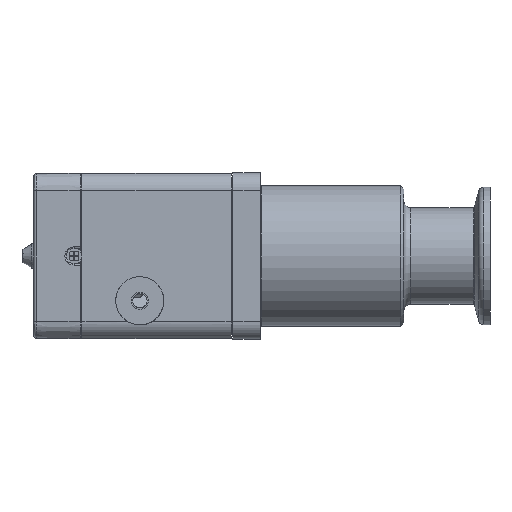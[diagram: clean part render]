
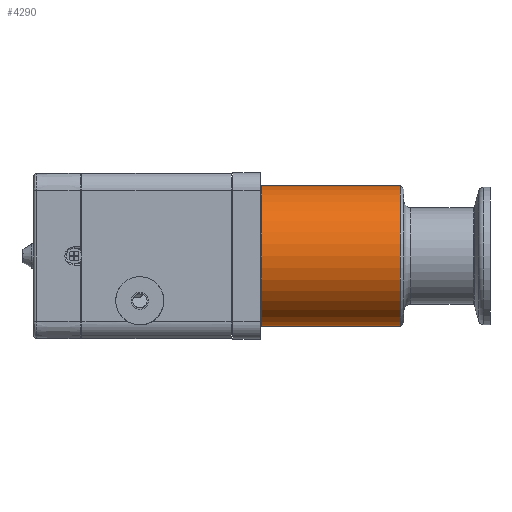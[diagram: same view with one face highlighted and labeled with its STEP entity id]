
A CAD part, left-side view. The second image highlights one B-rep face of the part: STEP entity #4290.
In plain terms, the highlighted cylindrical face has radius 20.45 mm (diameter 40.9 mm), a full revolution.
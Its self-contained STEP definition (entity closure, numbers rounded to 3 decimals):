
#3789=CYLINDRICAL_SURFACE('',#10882,20.45);
#3856=B_SPLINE_CURVE_WITH_KNOTS('',3,(#16342,#16343,#16344,#16345,#16346,
#16347,#16348,#16349,#16350,#16351,#16352,#16353,#16354,#16355,#16356,#16357,
#16358,#16359,#16360,#16361,#16362,#16363),.UNSPECIFIED.,.T.,.F.,(2,2,2,
2,2,2,2,2,2,2,2,2,2),(-0.063,0.,0.125,0.25,0.313,0.375,0.5,0.625,0.75,
0.875,0.938,1.,1.125),.UNSPECIFIED.);
#4290=ADVANCED_FACE('',(#4986,#4987,#4988),#3789,.T.);
#4986=FACE_BOUND('',#5710,.T.);
#4987=FACE_BOUND('',#5711,.T.);
#4988=FACE_BOUND('',#5712,.T.);
#5710=EDGE_LOOP('',(#7706));
#5711=EDGE_LOOP('',(#7707));
#5712=EDGE_LOOP('',(#7708));
#7706=ORIENTED_EDGE('',*,*,#9661,.F.);
#7707=ORIENTED_EDGE('',*,*,#9662,.T.);
#7708=ORIENTED_EDGE('',*,*,#9663,.F.);
#8629=VERTEX_POINT('',#16339);
#8630=VERTEX_POINT('',#16341);
#8631=VERTEX_POINT('',#16364);
#9661=EDGE_CURVE('',#8629,#8629,#10089,.T.);
#9662=EDGE_CURVE('',#8630,#8630,#10090,.T.);
#9663=EDGE_CURVE('',#8631,#8631,#3856,.T.);
#10089=CIRCLE('',#10880,20.45);
#10090=CIRCLE('',#10881,20.45);
#10880=AXIS2_PLACEMENT_3D('',#16338,#13054,#13055);
#10881=AXIS2_PLACEMENT_3D('',#16340,#13056,#13057);
#10882=AXIS2_PLACEMENT_3D('',#16365,#13058,#13059);
#13054=DIRECTION('',(-1.,0.,0.));
#13055=DIRECTION('',(0.,0.,1.));
#13056=DIRECTION('',(-1.,0.,0.));
#13057=DIRECTION('',(0.,0.,1.));
#13058=DIRECTION('',(-1.,0.,0.));
#13059=DIRECTION('',(0.,0.,1.));
#16338=CARTESIAN_POINT('',(26.,0.,0.));
#16339=CARTESIAN_POINT('',(26.,0.,20.45));
#16340=CARTESIAN_POINT('',(66.5,0.,0.));
#16341=CARTESIAN_POINT('',(66.5,0.,20.45));
#16342=CARTESIAN_POINT('',(51.699,16.185,-12.5));
#16343=CARTESIAN_POINT('',(46.602,16.185,-12.5));
#16344=CARTESIAN_POINT('',(43.439,17.352,-11.103));
#16345=CARTESIAN_POINT('',(38.937,19.505,-6.628));
#16346=CARTESIAN_POINT('',(37.514,20.442,-3.422));
#16347=CARTESIAN_POINT('',(37.493,20.454,1.637));
#16348=CARTESIAN_POINT('',(37.837,20.239,3.317));
#16349=CARTESIAN_POINT('',(39.106,19.503,6.346));
#16350=CARTESIAN_POINT('',(40.028,18.985,7.703));
#16351=CARTESIAN_POINT('',(43.393,17.371,11.076));
#16352=CARTESIAN_POINT('',(46.551,16.196,12.486));
#16353=CARTESIAN_POINT('',(53.348,16.174,12.514));
#16354=CARTESIAN_POINT('',(56.528,17.338,11.128));
#16355=CARTESIAN_POINT('',(61.065,19.504,6.634));
#16356=CARTESIAN_POINT('',(62.488,20.442,3.437));
#16357=CARTESIAN_POINT('',(62.512,20.458,-3.346));
#16358=CARTESIAN_POINT('',(61.096,19.523,-6.582));
#16359=CARTESIAN_POINT('',(57.71,17.9,-9.967));
#16360=CARTESIAN_POINT('',(56.379,17.337,-10.873));
#16361=CARTESIAN_POINT('',(53.372,16.47,-12.147));
#16362=CARTESIAN_POINT('',(51.699,16.185,-12.5));
#16363=CARTESIAN_POINT('',(46.602,16.185,-12.5));
#16364=CARTESIAN_POINT('',(50.,16.185,-12.5));
#16365=CARTESIAN_POINT('',(0.,0.,0.));
